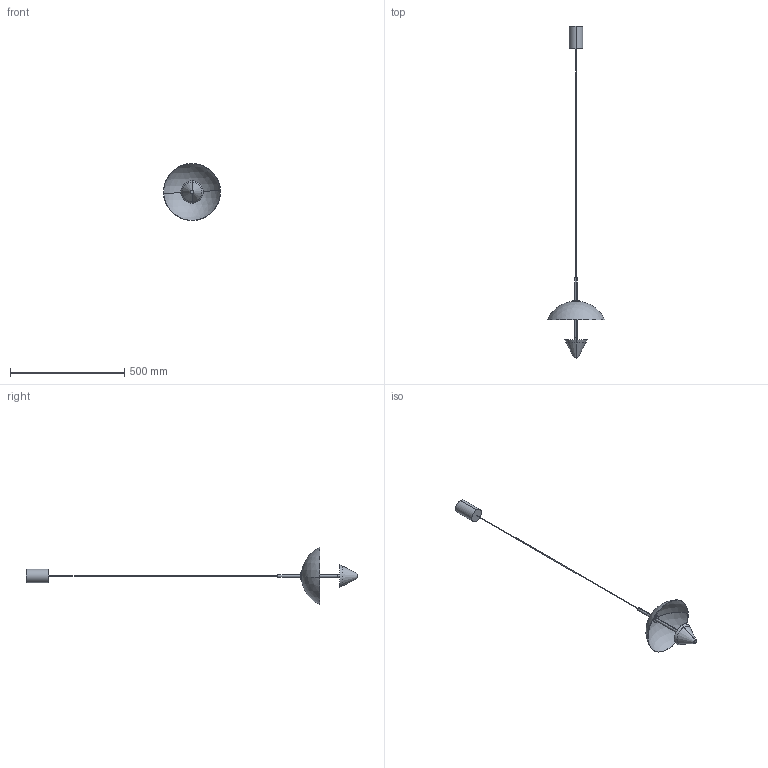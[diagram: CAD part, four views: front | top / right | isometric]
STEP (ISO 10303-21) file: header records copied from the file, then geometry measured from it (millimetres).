
FILE_DESCRIPTION (( 'STEP AP214' ), '1' );
FILE_NAME('CAL010883','',(''),(''),'','','');
FILE_SCHEMA (( 'AUTOMOTIVE_DESIGN' ));
Length unit declared in the file: millimetre
Products named in the file (1): CAL010883_CAL010883_2
Bounding box: 249.59 x 1450.12 x 249.59 mm (x, y, z)
Volume: 461278.1 mm3; surface area: 230405.1 mm2
Topology: 11 solids, 11 shells, 73 faces, 144 edges, 94 vertices
Faces by surface type: cylinder 31, plane 25, cone 6, sphere 4, torus 4, bspline 3
Entity records: 3321 total; most frequent: CARTESIAN_POINT 866, DIRECTION 342, ORIENTED_EDGE 288, AXIS2_PLACEMENT_3D 152, EDGE_CURVE 144, VERTEX_POINT 94, UNCERTAINTY_MEASURE_WITH_UNIT 86, SURFACE_STYLE_USAGE 85
